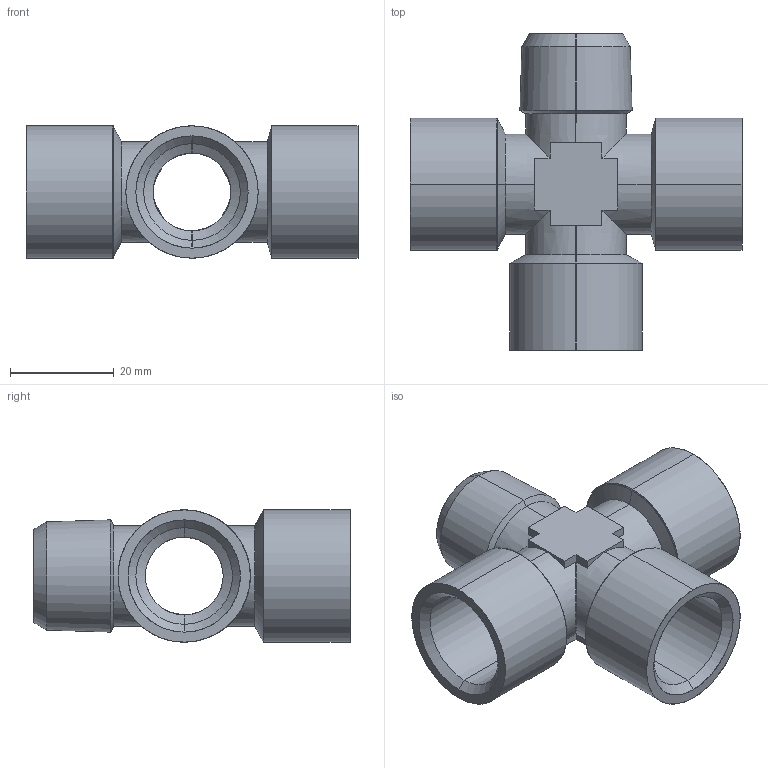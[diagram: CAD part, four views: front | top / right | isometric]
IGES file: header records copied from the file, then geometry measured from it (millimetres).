
Start section: SolidWorks IGES file using analytic representation for surfaces
Global section: file name: K:\Disegni Esecutivi\Accessori\6025\0602500010500.IGS; native system: SolidWorks 2007; preprocessor: SolidWorks 2007; author: cad02; date: 071024.145113; units: millimetre
Bounding box: 64 x 61 x 25.5 mm (x, y, z)
Surface area: 14134.3 mm2 (no closed solid volume)
Topology: 0 solids, 0 shells, 90 faces, 912 edges, 912 vertices
Faces by surface type: revolution 54, bspline 36
